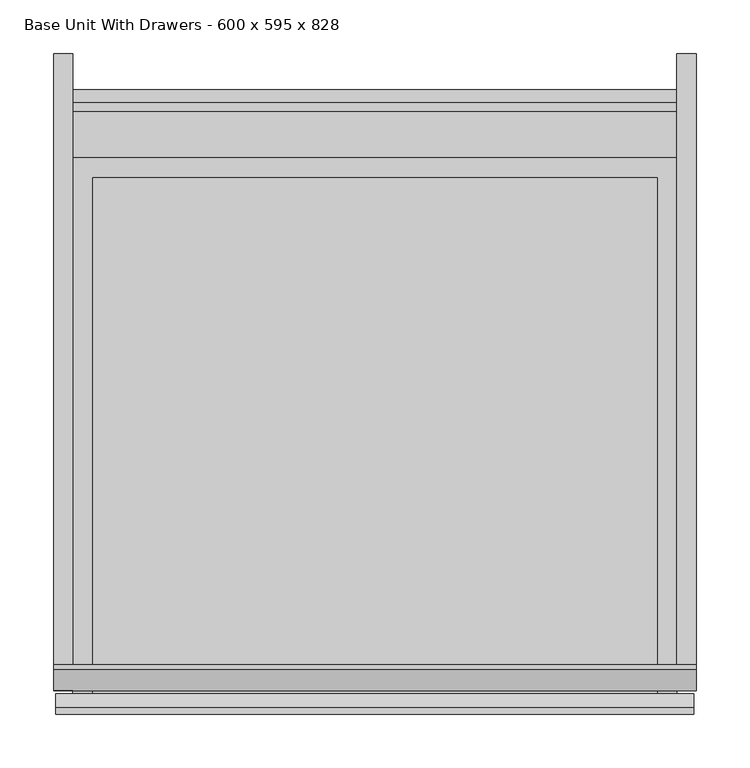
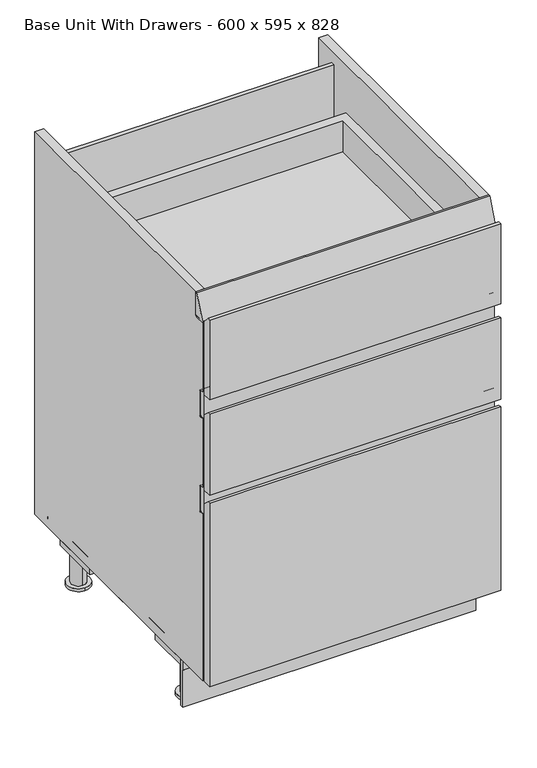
"""IFC4 building model written with IfcOpenShell, lengths in millimetres: furniture geometry, Furniture_Other-Furniture_Molteni&C_Prime_Base-With-Drawers : Base Unit With Drawers - 600 x 595 x 828."""

from ifc_helpers import new_model, si_unit, point, frame, frame_2d, origin, place, context, project, spatial, polyline, circle_curve, trimmed, segment, composite_curve, outline, extrude, faceted_brep, source, transform, mapped, element, save
from ifc_brep_helpers import plane_surface, cylinder_surface, advanced_brep


def base_unit_with_drawers_600_x_595_x_828_efac2a1d(model_context):
    return source(origin(), model_context, "Body", "SolidModel", [
        extrude(outline(composite_curve([segment(polyline([(-297.5, 667.5185675), (-297.5, 725.2271229), (-292.5, 725.2271229)]), True, "CONTINUOUS"), segment(trimmed(circle_curve(frame_2d((-292.5, 720.2271229)), 5.0), [point((-292.5, 725.2271229))], [point((-287.5, 720.2271229))], False, "CARTESIAN"), True, "CONTINUOUS"), segment(polyline([(-287.5, 720.2271229), (-287.5, 672.5185675)]), True, "CONTINUOUS"), segment(trimmed(circle_curve(frame_2d((-292.5, 672.5185675)), 5.0), [point((-287.5, 672.5185675))], [point((-292.5, 667.5185675))], False, "CARTESIAN"), True, "CONTINUOUS"), segment(polyline([(-292.5, 667.5185675), (-297.5, 667.5185675)]), True, "CONTINUOUS")], self_intersect=False)), frame((-298.0, 0.0, 0.0), z_axis=(1.0, 0.0, 0.0), x_axis=(0.0, 1.0, 0.0)), (0.0, 0.0, 1.0), 596.0),
        extrude(outline(composite_curve([segment(trimmed(circle_curve(frame_2d((-292.5, 465.5185675)), 5.0), [point((-287.5, 465.5185675))], [point((-292.5, 460.5185675))], False, "CARTESIAN"), True, "CONTINUOUS"), segment(polyline([(-292.5, 460.5185675), (-297.5, 460.5185675), (-297.5, 518.2271229), (-292.5, 518.2271229)]), True, "CONTINUOUS"), segment(trimmed(circle_curve(frame_2d((-292.5, 513.2271229)), 5.0), [point((-292.5, 518.2271229))], [point((-287.5, 513.2271229))], False, "CARTESIAN"), True, "CONTINUOUS"), segment(polyline([(-287.5, 513.2271229), (-287.5, 465.5185675)]), True, "CONTINUOUS")], self_intersect=False)), frame((-298.0, 0.0, 0.0), z_axis=(1.0, 0.0, 0.0), x_axis=(0.0, 1.0, 0.0)), (0.0, 0.0, 1.0), 596.0),
        extrude(outline(composite_curve([segment(polyline([(-297.5, 877.3416662), (-277.2702375, 928.0), (-273.0222513, 928.0), (-273.0222513, 879.3794292)]), True, "CONTINUOUS"), segment(trimmed(circle_curve(frame_2d((-277.034701, 879.3794292)), 4.0124497), [point((-273.0222513, 879.3794292))], [point((-277.034701, 875.3669795))], False, "CARTESIAN"), True, "CONTINUOUS"), segment(polyline([(-277.034701, 875.3669795), (-297.5, 875.3669795), (-297.5, 877.3416662)]), True, "CONTINUOUS")], self_intersect=False)), frame((-300.0, 0.0, 0.0), z_axis=(1.0, 0.0, 0.0), x_axis=(0.0, 1.0, 0.0)), (0.0, 0.0, 1.0), 600.0),
        extrude(outline(polyline([(-319.5, 690.0), (-313.5, 690.0), (-300.5, 677.0), (-300.5, 514.0), (-319.5, 514.0), (-319.5, 690.0)])), frame((-298.0, 0.0, 0.0), z_axis=(1.0, 0.0, 0.0), x_axis=(0.0, 1.0, 0.0)), (0.0, 0.0, 1.0), 596.0),
        extrude(outline(polyline([(-319.5, 100.0), (-319.5, 497.0), (-313.5, 497.0), (-300.5, 484.0), (-300.5, 100.0), (-319.5, 100.0)])), frame((-298.0, 0.0, 0.0), z_axis=(1.0, 0.0, 0.0), x_axis=(0.0, 1.0, 0.0)), (0.0, 0.0, 1.0), 596.0),
        extrude(outline(polyline([(-300.5, 878.5), (-300.5, 721.0), (-319.5, 721.0), (-319.5, 894.0), (-313.5, 894.0), (-300.5, 878.5)])), frame((-298.0, 0.0, 0.0), z_axis=(1.0, 0.0, 0.0), x_axis=(0.0, 1.0, 0.0)), (0.0, 0.0, 1.0), 596.0),
        extrude(outline(composite_curve([segment(polyline([(-273.0222513, 928.0), (297.5, 928.0), (297.5, 100.0), (-297.5, 100.0), (-297.5, 460.5185675), (-290.5, 460.5185675)]), True, "CONTINUOUS"), segment(trimmed(circle_curve(frame_2d((-290.5, 463.5185675)), 3.0), [point((-290.5, 460.5185675))], [point((-287.5, 463.5185675))], True, "CARTESIAN"), True, "CONTINUOUS"), segment(polyline([(-287.5, 463.5185675), (-287.5, 514.7345888)]), True, "CONTINUOUS"), segment(trimmed(circle_curve(frame_2d((-291.398986, 514.7345888)), 3.898986), [point((-287.5, 514.7345888))], [point((-291.398986, 518.6335747))], True, "CARTESIAN"), True, "CONTINUOUS"), segment(polyline([(-291.398986, 518.6335747), (-297.5, 518.6335747), (-297.5, 667.4321675), (-289.9576065, 667.4321675)]), True, "CONTINUOUS"), segment(trimmed(circle_curve(frame_2d((-290.5, 670.3827283)), 3.0), [point((-289.9576065, 667.4321675))], [point((-287.5, 670.3827283))], True, "CARTESIAN"), True, "CONTINUOUS"), segment(polyline([(-287.5, 670.3827283), (-287.5, 721.7345888)]), True, "CONTINUOUS"), segment(trimmed(circle_curve(frame_2d((-291.398986, 721.7345888)), 3.898986), [point((-287.5, 721.7345888))], [point((-291.398986, 725.6335747))], True, "CARTESIAN"), True, "CONTINUOUS"), segment(polyline([(-291.398986, 725.6335747), (-297.5, 725.6335747), (-297.5, 878.3669795), (-277.034701, 878.3669795)]), True, "CONTINUOUS"), segment(trimmed(circle_curve(frame_2d((-277.034701, 882.3794292)), 4.0124497), [point((-277.034701, 878.3669795))], [point((-273.0222513, 882.3794292))], True, "CARTESIAN"), True, "CONTINUOUS"), segment(polyline([(-273.0222513, 882.3794292), (-273.0222513, 928.0)]), True, "CONTINUOUS")], self_intersect=False)), frame((-300.0, 0.0, 0.0), z_axis=(1.0, 0.0, 0.0), x_axis=(0.0, 1.0, 0.0)), (0.0, 0.0, 1.0), 18.0),
        extrude(outline(composite_curve([segment(polyline([(-273.0222513, 928.0), (297.5, 928.0), (297.5, 100.0), (-297.5, 100.0), (-297.5, 460.7488715), (-290.5, 460.7488715)]), True, "CONTINUOUS"), segment(trimmed(circle_curve(frame_2d((-290.5, 463.7488715)), 3.0), [point((-290.5, 460.7488715))], [point((-287.5, 463.7488715))], True, "CARTESIAN"), True, "CONTINUOUS"), segment(polyline([(-287.5, 463.7488715), (-287.5, 514.7345888)]), True, "CONTINUOUS"), segment(trimmed(circle_curve(frame_2d((-291.398986, 514.7345888)), 3.898986), [point((-287.5, 514.7345888))], [point((-291.398986, 518.6335747))], True, "CARTESIAN"), True, "CONTINUOUS"), segment(polyline([(-291.398986, 518.6335747), (-297.5, 518.6335747), (-297.5, 667.4321675), (-289.9576065, 667.4321675)]), True, "CONTINUOUS"), segment(trimmed(circle_curve(frame_2d((-290.5, 670.3827283)), 3.0), [point((-289.9576065, 667.4321675))], [point((-287.5, 670.3827283))], True, "CARTESIAN"), True, "CONTINUOUS"), segment(polyline([(-287.5, 670.3827283), (-287.5, 721.7345888)]), True, "CONTINUOUS"), segment(trimmed(circle_curve(frame_2d((-291.398986, 721.7345888)), 3.898986), [point((-287.5, 721.7345888))], [point((-291.398986, 725.6335747))], True, "CARTESIAN"), True, "CONTINUOUS"), segment(polyline([(-291.398986, 725.6335747), (-297.5, 725.6335747), (-297.5, 875.3669795), (-277.034701, 875.3669795)]), True, "CONTINUOUS"), segment(trimmed(circle_curve(frame_2d((-277.034701, 879.3794292)), 4.0124497), [point((-277.034701, 875.3669795))], [point((-273.0222513, 879.3794292))], True, "CARTESIAN"), True, "CONTINUOUS"), segment(polyline([(-273.0222513, 879.3794292), (-273.0222513, 928.0)]), True, "CONTINUOUS")], self_intersect=False)), frame((282.0, 0.0, 0.0), z_axis=(1.0, 0.0, 0.0), x_axis=(0.0, 1.0, 0.0)), (0.0, 0.0, 1.0), 18.0),
        advanced_brep(
        [(300.0, -227.5, 80.0), (300.0, -227.5, 0.0), (300.0, -219.5, 0.0), (300.0, -219.5, 80.0), (300.0, -220.5, 80.0), (300.0, -220.5, 100.0), (300.0, -226.5, 100.0), (300.0, -226.5, 80.0), (-300.0, -227.5, 80.0), (-300.0, -226.5, 80.0), (-300.0, -226.5, 100.0), (-300.0, -220.5, 100.0), (-300.0, -220.5, 80.0), (-300.0, -219.5, 80.0), (-300.0, -219.5, 0.0), (-300.0, -227.5, 0.0), (-292.0, -219.5, 80.0), (-292.0, -219.5, 76.0), (-187.4, -219.5, 76.0), (-187.4, -219.5, 80.0), (187.4, -219.5, 80.0), (187.4, -219.5, 76.0), (292.0, -219.5, 76.0), (292.0, -219.5, 80.0), (292.0, -220.2543184, 80.0), (187.4, -220.2543184, 80.0), (-187.4, -220.2543184, 80.0), (-292.0, -220.2543184, 80.0), (292.0, -220.2543184, 100.0), (292.0, -116.0117937, 100.0), (262.0, -116.0117937, 100.0), (187.4, -190.6117937, 100.0), (187.4, -220.2543184, 100.0), (-292.0, -220.2543184, 100.0), (-187.4, -220.2543184, 100.0), (-187.4, -190.6117937, 100.0), (-262.0, -116.0117937, 100.0), (-292.0, -116.0117937, 100.0), (187.4, -190.6117937, 76.0), (262.0, -116.0117937, 76.0), (292.0, -116.0117937, 76.0), (270.0, -210.450213, 76.0), (270.0, -180.450213, 76.0), (-292.0, -116.0117937, 76.0), (-262.0, -116.0117937, 76.0), (-187.4, -190.6117937, 76.0), (-270.0, -210.450213, 76.0), (-270.0, -180.450213, 76.0), (270.0, -172.0406948, 0.0), (270.0, -219.0487988, 0.0), (-270.0, -219.04912, 0.0), (-270.0, -172.041016, 0.0), (-270.0, -210.450213, 6.1757403), (-270.0, -180.450213, 6.1757403), (270.0, -210.450213, 6.1757403), (270.0, -180.450213, 6.1757403), (270.0, -172.0406948, 6.1757403), (270.0, -219.0487988, 6.1757403), (-270.0, -219.04912, 6.1757403), (-270.0, -172.041016, 6.1757403)],
        [
            (0, 1),
            (1, 2),
            (2, 3),
            (3, 4),
            (4, 5),
            (5, 6),
            (6, 7),
            (7, 0),
            (8, 9),
            (9, 10),
            (10, 11),
            (11, 12),
            (12, 13),
            (13, 14),
            (14, 15),
            (15, 8),
            (0, 8),
            (15, 1),
            (14, 2),
            (13, 16),
            (16, 17),
            (17, 18),
            (18, 19),
            (19, 20),
            (20, 21),
            (21, 22),
            (22, 23),
            (23, 3),
            (23, 24),
            (24, 25),
            (25, 20),
            (19, 26),
            (26, 27),
            (27, 16),
            (12, 4),
            (11, 5),
            (10, 6),
            (9, 7),
            (28, 29),
            (29, 30),
            (30, 31),
            (31, 32),
            (32, 28),
            (33, 34),
            (34, 35),
            (35, 36),
            (36, 37),
            (37, 33),
            (38, 39),
            (39, 40),
            (40, 22),
            (21, 38),
            (41, 42, circle_curve(frame((270.0, -195.450213, 76.0), z_axis=(0.0, 0.0, 1.0), x_axis=(1.0, 0.0, 0.0)), 15.0)),
            (42, 41, circle_curve(frame((270.0, -195.450213, 76.0), z_axis=(0.0, 0.0, 1.0), x_axis=(1.0, 0.0, 0.0)), 15.0)),
            (43, 44),
            (44, 45),
            (45, 18),
            (17, 43),
            (46, 47, circle_curve(frame((-270.0, -195.450213, 76.0), z_axis=(0.0, 0.0, 1.0), x_axis=(1.0, 0.0, 0.0)), 15.0)),
            (47, 46, circle_curve(frame((-270.0, -195.450213, 76.0), z_axis=(0.0, 0.0, 1.0), x_axis=(1.0, 0.0, 0.0)), 15.0)),
            (28, 24),
            (40, 29),
            (39, 30),
            (38, 31),
            (25, 32),
            (33, 27),
            (26, 34),
            (45, 35),
            (44, 36),
            (43, 37),
            (48, 49, circle_curve(frame((270.0, -195.5447468, 0.0), z_axis=(0.0, 0.0, -1.0), x_axis=(1.0, 0.0, 0.0)), 23.504052)),
            (49, 48, circle_curve(frame((270.0, -195.5447468, 0.0), z_axis=(0.0, 0.0, -1.0), x_axis=(1.0, 0.0, 0.0)), 23.504052)),
            (50, 51, circle_curve(frame((-270.0, -195.545068, 0.0), z_axis=(0.0, 0.0, -1.0), x_axis=(1.0, 0.0, 0.0)), 23.504052)),
            (51, 50, circle_curve(frame((-270.0, -195.545068, 0.0), z_axis=(0.0, 0.0, -1.0), x_axis=(1.0, 0.0, 0.0)), 23.504052)),
            (46, 52),
            (52, 53, circle_curve(frame((-270.0, -195.450213, 6.1757403), z_axis=(0.0, 0.0, 1.0), x_axis=(1.0, 0.0, 0.0)), 15.0)),
            (53, 47),
            (53, 52, circle_curve(frame((-270.0, -195.450213, 6.1757403), z_axis=(0.0, 0.0, 1.0), x_axis=(1.0, 0.0, 0.0)), 15.0)),
            (41, 54),
            (54, 55, circle_curve(frame((270.0, -195.450213, 6.1757403), z_axis=(0.0, 0.0, 1.0), x_axis=(1.0, 0.0, 0.0)), 15.0)),
            (55, 42),
            (55, 54, circle_curve(frame((270.0, -195.450213, 6.1757403), z_axis=(0.0, 0.0, 1.0), x_axis=(1.0, 0.0, 0.0)), 15.0)),
            (56, 57, circle_curve(frame((270.0, -195.5447468, 6.1757403), z_axis=(0.0, 0.0, 1.0), x_axis=(1.0, 0.0, 0.0)), 23.504052)),
            (57, 56, circle_curve(frame((270.0, -195.5447468, 6.1757403), z_axis=(0.0, 0.0, 1.0), x_axis=(1.0, 0.0, 0.0)), 23.504052)),
            (58, 59, circle_curve(frame((-270.0, -195.545068, 6.1757403), z_axis=(0.0, 0.0, 1.0), x_axis=(1.0, 0.0, 0.0)), 23.504052)),
            (59, 58, circle_curve(frame((-270.0, -195.545068, 6.1757403), z_axis=(0.0, 0.0, 1.0), x_axis=(1.0, 0.0, 0.0)), 23.504052)),
            (56, 48),
            (49, 57),
            (58, 50),
            (51, 59),
        ],
        [
            plane_surface(frame((300.0, -227.5, 0.0), z_axis=(1.0, 0.0, 0.0), x_axis=(0.0, 0.0, -1.0))),
            plane_surface(frame((-300.0, -227.5, 0.0), z_axis=(-1.0, 0.0, 0.0), x_axis=(0.0, 0.0, 1.0))),
            plane_surface(frame((300.0, -227.5, 80.0), z_axis=(0.0, -1.0, 0.0), x_axis=(-1.0, 0.0, 0.0))),
            plane_surface(frame((300.0, -227.5, 0.0), z_axis=(0.0, 0.0, -1.0), x_axis=(-1.0, 0.0, 0.0))),
            plane_surface(frame((300.0, -219.5, 0.0), z_axis=(0.0, 1.0, 0.0), x_axis=(-1.0, 0.0, 0.0))),
            plane_surface(frame((300.0, -219.5, 80.0), z_axis=(0.0, 0.0, 1.0), x_axis=(-1.0, 0.0, 0.0))),
            plane_surface(frame((300.0, -220.5, 80.0), z_axis=(0.0, 1.0, 0.0), x_axis=(-1.0, 0.0, 0.0))),
            plane_surface(frame((300.0, -220.5, 100.0), z_axis=(0.0, 0.0, 1.0), x_axis=(-1.0, 0.0, 0.0))),
            plane_surface(frame((300.0, -226.5, 100.0), z_axis=(0.0, -1.0, 0.0), x_axis=(-1.0, 0.0, 0.0))),
            plane_surface(frame((300.0, -226.5, 80.0), z_axis=(0.0, 0.0, 1.0), x_axis=(-1.0, 0.0, 0.0))),
            plane_surface(frame((-292.0, 116.2642334, 100.0), z_axis=(0.0, 0.0, 1.0), x_axis=(1.0, 0.0, 0.0))),
            plane_surface(frame((-292.0, 116.2642334, 76.0), z_axis=(0.0, 0.0, -1.0), x_axis=(-1.0, 0.0, 0.0))),
            plane_surface(frame((292.0, -220.2543184, 100.0), z_axis=(1.0, 0.0, 0.0), x_axis=(0.0, 0.0, -1.0))),
            plane_surface(frame((292.0, -116.0117937, 100.0), z_axis=(0.0, 1.0, 0.0), x_axis=(0.0, 0.0, -1.0))),
            plane_surface(frame((262.0, -116.0117937, 100.0), z_axis=(-0.7071067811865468, 0.7071067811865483, 0.0), x_axis=(0.0, 0.0, -1.0))),
            plane_surface(frame((187.4, -190.6117937, 100.0), z_axis=(-1.0, 0.0, 0.0), x_axis=(0.0, 0.0, -1.0))),
            plane_surface(frame((187.4, -220.2543184, 100.0), z_axis=(0.0, -1.0, 0.0), x_axis=(0.0, 0.0, -1.0))),
            plane_surface(frame((-292.0, -220.2543184, 100.0), z_axis=(0.0, -1.0, 0.0), x_axis=(0.0, 0.0, -1.0))),
            plane_surface(frame((-187.4, -220.2543184, 100.0), z_axis=(1.0, 0.0, 0.0), x_axis=(0.0, 0.0, -1.0))),
            plane_surface(frame((-187.4, -190.6117937, 100.0), z_axis=(0.7071067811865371, 0.707106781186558, 0.0), x_axis=(0.0, 0.0, -1.0))),
            plane_surface(frame((-262.0, -116.0117937, 100.0), z_axis=(0.0, 1.0, 0.0), x_axis=(0.0, 0.0, -1.0))),
            plane_surface(frame((-292.0, -116.0117937, 100.0), z_axis=(-1.0, 0.0, 0.0), x_axis=(0.0, 0.0, -1.0))),
            plane_surface(frame((-255.0, 195.450213, 0.0), z_axis=(0.0, 0.0, -1.0), x_axis=(0.0, -1.0, 0.0))),
            cylinder_surface(frame((-270.0, -195.450213, 0.0), z_axis=(0.0, 0.0, 1.0), x_axis=(1.0, 0.0, 0.0)), 15.0),
            cylinder_surface(frame((270.0, -195.450213, 0.0), z_axis=(0.0, 0.0, 1.0), x_axis=(1.0, 0.0, 0.0)), 15.0),
            plane_surface(frame((293.504052, -195.5447468, 6.1757403), z_axis=(0.0, 0.0, 1.0), x_axis=(0.0, 1.0, 0.0))),
            cylinder_surface(frame((270.0, -195.5447468, 0.0), z_axis=(0.0, 0.0, 1.0), x_axis=(1.0, 0.0, 0.0)), 23.504052),
            cylinder_surface(frame((-270.0, -195.545068, 0.0), z_axis=(0.0, 0.0, 1.0), x_axis=(1.0, 0.0, 0.0)), 23.504052),
        ],
        [
            (0, [[1, 2, 3, 4, 5, 6, 7, 8]]),
            (1, [[9, 10, 11, 12, 13, 14, 15, 16]]),
            (2, [[-1, 17, -16, 18]]),
            (3, [[-2, -18, -15, 19]]),
            (4, [[-3, -19, -14, 20, 21, 22, 23, 24, 25, 26, 27, 28]]),
            (5, [[-4, -28, 29, 30, 31, -24, 32, 33, 34, -20, -13, 35]]),
            (6, [[-5, -35, -12, 36]]),
            (7, [[-6, -36, -11, 37]]),
            (8, [[-7, -37, -10, 38]]),
            (9, [[-8, -38, -9, -17]]),
            (10, [[39, 40, 41, 42, 43]]),
            (10, [[44, 45, 46, 47, 48]]),
            (11, [[49, 50, 51, -26, 52], [53, 54]]),
            (11, [[55, 56, 57, -22, 58], [59, 60]]),
            (12, [[-39, 61, -29, -27, -51, 62]]),
            (13, [[-40, -62, -50, 63]]),
            (14, [[-41, -63, -49, 64]]),
            (15, [[-42, -64, -52, -25, -31, 65]]),
            (16, [[-43, -65, -30, -61]]),
            (17, [[-44, 66, -33, 67]]),
            (18, [[-45, -67, -32, -23, -57, 68]]),
            (19, [[-46, -68, -56, 69]]),
            (20, [[-47, -69, -55, 70]]),
            (21, [[-48, -70, -58, -21, -34, -66]]),
            (22, [[71, 72]]),
            (22, [[73, 74]]),
            (23, [[-59, 75, 76, 77]]),
            (23, [[-60, -77, 78, -75]]),
            (24, [[-53, 79, 80, 81]]),
            (24, [[-54, -81, 82, -79]]),
            (25, [[83, 84], [-80, -82]]),
            (25, [[85, 86], [-76, -78]]),
            (26, [[-83, 87, -72, 88]]),
            (26, [[-84, -88, -71, -87]]),
            (27, [[-85, 89, -74, 90]]),
            (27, [[-86, -90, -73, -89]]),
        ],
    ),
        advanced_brep(
        [(-292.0, 116.2642334, 100.0), (-262.0, 116.2642334, 100.0), (-187.4, 190.8642334, 100.0), (-187.4, 220.9077377, 100.0), (-292.0, 220.9077377, 100.0), (-292.0, 116.2642334, 76.0), (-292.0, 220.9077377, 76.0), (-187.4, 220.9077377, 76.0), (-187.4, 190.8642334, 76.0), (-262.0, 116.2642334, 76.0), (-270.0, 180.450213, 76.0), (-270.0, 210.450213, 76.0), (-270.0, 219.004052, 0.0), (-270.0, 171.995948, 0.0), (-270.0, 180.450213, 6.1757403), (-270.0, 210.450213, 6.1757403), (-270.0, 219.004052, 6.1757403), (-270.0, 171.995948, 6.1757403)],
        [
            (0, 1),
            (1, 2),
            (2, 3),
            (3, 4),
            (4, 0),
            (5, 6),
            (6, 7),
            (7, 8),
            (8, 9),
            (9, 5),
            (10, 11, circle_curve(frame((-270.0, 195.450213, 76.0), z_axis=(0.0, 0.0, 1.0), x_axis=(1.0, 0.0, 0.0)), 15.0)),
            (11, 10, circle_curve(frame((-270.0, 195.450213, 76.0), z_axis=(0.0, 0.0, 1.0), x_axis=(1.0, 0.0, 0.0)), 15.0)),
            (0, 5),
            (9, 1),
            (8, 2),
            (7, 3),
            (6, 4),
            (12, 13, circle_curve(frame((-270.0, 195.5, 0.0), z_axis=(0.0, 0.0, -1.0), x_axis=(1.0, 0.0, 0.0)), 23.504052)),
            (13, 12, circle_curve(frame((-270.0, 195.5, 0.0), z_axis=(0.0, 0.0, -1.0), x_axis=(1.0, 0.0, 0.0)), 23.504052)),
            (10, 14),
            (14, 15, circle_curve(frame((-270.0, 195.450213, 6.1757403), z_axis=(0.0, 0.0, 1.0), x_axis=(1.0, 0.0, 0.0)), 15.0)),
            (15, 11),
            (15, 14, circle_curve(frame((-270.0, 195.450213, 6.1757403), z_axis=(0.0, 0.0, 1.0), x_axis=(1.0, 0.0, 0.0)), 15.0)),
            (16, 17, circle_curve(frame((-270.0, 195.5, 6.1757403), z_axis=(0.0, 0.0, 1.0), x_axis=(1.0, 0.0, 0.0)), 23.504052)),
            (17, 16, circle_curve(frame((-270.0, 195.5, 6.1757403), z_axis=(0.0, 0.0, 1.0), x_axis=(1.0, 0.0, 0.0)), 23.504052)),
            (16, 12),
            (13, 17),
        ],
        [
            plane_surface(frame((-292.0, 116.2642334, 100.0), z_axis=(0.0, 0.0, 1.0), x_axis=(1.0, 0.0, 0.0))),
            plane_surface(frame((-292.0, 116.2642334, 76.0), z_axis=(0.0, 0.0, -1.0), x_axis=(-1.0, 0.0, 0.0))),
            plane_surface(frame((-292.0, 116.2642334, 100.0), z_axis=(0.0, -1.0, 0.0), x_axis=(0.0, 0.0, -1.0))),
            plane_surface(frame((-262.0, 116.2642334, 100.0), z_axis=(0.7071067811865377, -0.7071067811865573, 0.0), x_axis=(0.0, 0.0, -1.0))),
            plane_surface(frame((-187.4, 190.8642334, 100.0), z_axis=(1.0, 0.0, 0.0), x_axis=(0.0, 0.0, -1.0))),
            plane_surface(frame((-187.4, 220.9077377, 100.0), z_axis=(0.0, 1.0, 0.0), x_axis=(0.0, 0.0, -1.0))),
            plane_surface(frame((-292.0, 220.9077377, 100.0), z_axis=(-1.0, 0.0, 0.0), x_axis=(0.0, 0.0, -1.0))),
            plane_surface(frame((-255.0, 195.450213, 0.0), z_axis=(0.0, 0.0, -1.0), x_axis=(0.0, -1.0, 0.0))),
            cylinder_surface(frame((-270.0, 195.450213, 0.0), z_axis=(0.0, 0.0, 1.0), x_axis=(1.0, 0.0, 0.0)), 15.0),
            plane_surface(frame((293.504052, -195.5447468, 6.1757403), z_axis=(0.0, 0.0, 1.0), x_axis=(0.0, 1.0, 0.0))),
            cylinder_surface(frame((-270.0, 195.5, 0.0), z_axis=(0.0, 0.0, 1.0), x_axis=(1.0, 0.0, 0.0)), 23.504052),
        ],
        [
            (0, [[1, 2, 3, 4, 5]]),
            (1, [[6, 7, 8, 9, 10], [11, 12]]),
            (2, [[-1, 13, -10, 14]]),
            (3, [[-2, -14, -9, 15]]),
            (4, [[-3, -15, -8, 16]]),
            (5, [[-4, -16, -7, 17]]),
            (6, [[-5, -17, -6, -13]]),
            (7, [[18, 19]]),
            (8, [[-11, 20, 21, 22]]),
            (8, [[-12, -22, 23, -20]]),
            (9, [[24, 25], [-21, -23]]),
            (10, [[-24, 26, -19, 27]]),
            (10, [[-25, -27, -18, -26]]),
        ],
    ),
        advanced_brep(
        [(292.0, 116.2642334, 100.0), (292.0, 220.9077377, 100.0), (187.4, 220.9077377, 100.0), (187.4, 190.8642334, 100.0), (262.0, 116.2642334, 100.0), (292.0, 116.2642334, 76.0), (262.0, 116.2642334, 76.0), (187.4, 190.8642334, 76.0), (187.4, 220.9077377, 76.0), (292.0, 220.9077377, 76.0), (270.0, 180.450213, 76.0), (270.0, 210.450213, 76.0), (270.0, 219.004052, 0.0), (270.0, 171.995948, 0.0), (270.0, 180.450213, 6.1757403), (270.0, 210.450213, 6.1757403), (270.0, 219.004052, 6.1757403), (270.0, 171.995948, 6.1757403)],
        [
            (0, 1),
            (1, 2),
            (2, 3),
            (3, 4),
            (4, 0),
            (5, 6),
            (6, 7),
            (7, 8),
            (8, 9),
            (9, 5),
            (10, 11, circle_curve(frame((270.0, 195.450213, 76.0), z_axis=(0.0, 0.0, 1.0), x_axis=(1.0, 0.0, 0.0)), 15.0)),
            (11, 10, circle_curve(frame((270.0, 195.450213, 76.0), z_axis=(0.0, 0.0, 1.0), x_axis=(1.0, 0.0, 0.0)), 15.0)),
            (0, 5),
            (9, 1),
            (8, 2),
            (7, 3),
            (6, 4),
            (12, 13, circle_curve(frame((270.0, 195.5, 0.0), z_axis=(0.0, 0.0, -1.0), x_axis=(1.0, 0.0, 0.0)), 23.504052)),
            (13, 12, circle_curve(frame((270.0, 195.5, 0.0), z_axis=(0.0, 0.0, -1.0), x_axis=(1.0, 0.0, 0.0)), 23.504052)),
            (10, 14),
            (14, 15, circle_curve(frame((270.0, 195.450213, 6.1757403), z_axis=(0.0, 0.0, 1.0), x_axis=(1.0, 0.0, 0.0)), 15.0)),
            (15, 11),
            (15, 14, circle_curve(frame((270.0, 195.450213, 6.1757403), z_axis=(0.0, 0.0, 1.0), x_axis=(1.0, 0.0, 0.0)), 15.0)),
            (16, 17, circle_curve(frame((270.0, 195.5, 6.1757403), z_axis=(0.0, 0.0, 1.0), x_axis=(1.0, 0.0, 0.0)), 23.504052)),
            (17, 16, circle_curve(frame((270.0, 195.5, 6.1757403), z_axis=(0.0, 0.0, 1.0), x_axis=(1.0, 0.0, 0.0)), 23.504052)),
            (16, 12),
            (13, 17),
        ],
        [
            plane_surface(frame((-292.0, 116.2642334, 100.0), z_axis=(0.0, 0.0, 1.0), x_axis=(1.0, 0.0, 0.0))),
            plane_surface(frame((-292.0, 116.2642334, 76.0), z_axis=(0.0, 0.0, -1.0), x_axis=(-1.0, 0.0, 0.0))),
            plane_surface(frame((292.0, 116.2642334, 100.0), z_axis=(1.0, 0.0, 0.0), x_axis=(0.0, 0.0, -1.0))),
            plane_surface(frame((292.0, 220.9077377, 100.0), z_axis=(0.0, 1.0, 0.0), x_axis=(0.0, 0.0, -1.0))),
            plane_surface(frame((187.4, 220.9077377, 100.0), z_axis=(-1.0, 0.0, 0.0), x_axis=(0.0, 0.0, -1.0))),
            plane_surface(frame((187.4, 190.8642334, 100.0), z_axis=(-0.7071067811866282, -0.7071067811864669, 0.0), x_axis=(0.0, 0.0, -1.0))),
            plane_surface(frame((262.0, 116.2642334, 100.0), z_axis=(0.0, -1.0, 0.0), x_axis=(0.0, 0.0, -1.0))),
            plane_surface(frame((-255.0, 195.450213, 0.0), z_axis=(0.0, 0.0, -1.0), x_axis=(0.0, -1.0, 0.0))),
            cylinder_surface(frame((270.0, 195.450213, 0.0), z_axis=(0.0, 0.0, 1.0), x_axis=(1.0, 0.0, 0.0)), 15.0),
            plane_surface(frame((293.504052, -195.5447468, 6.1757403), z_axis=(0.0, 0.0, 1.0), x_axis=(0.0, 1.0, 0.0))),
            cylinder_surface(frame((270.0, 195.5, 0.0), z_axis=(0.0, 0.0, 1.0), x_axis=(1.0, 0.0, 0.0)), 23.504052),
        ],
        [
            (0, [[1, 2, 3, 4, 5]]),
            (1, [[6, 7, 8, 9, 10], [11, 12]]),
            (2, [[-1, 13, -10, 14]]),
            (3, [[-2, -14, -9, 15]]),
            (4, [[-3, -15, -8, 16]]),
            (5, [[-4, -16, -7, 17]]),
            (6, [[-5, -17, -6, -13]]),
            (7, [[18, 19]]),
            (8, [[-11, 20, 21, 22]]),
            (8, [[-12, -22, 23, -20]]),
            (9, [[24, 25], [-21, -23]]),
            (10, [[-24, 26, -19, 27]]),
            (10, [[-25, -27, -18, -26]]),
        ],
    ),
        faceted_brep([(-282.0, 200.107461, 628.2001126), (-282.0, -300.5, 628.2001126), (-264.0, -300.5, 628.2001126), (-264.0, 182.107461, 628.2001126), (264.0, 182.107461, 628.2001126), (264.0, -300.5, 628.2001126), (282.0, -300.5, 628.2001126), (282.0, 200.107461, 628.2001126), (-282.0, 200.107461, 534.1589863), (282.0, 200.107461, 534.1589863), (282.0, -300.5, 534.1589863), (-282.0, -300.5, 534.1589863), (264.0, -300.5, 556.1589863), (-264.0, -300.5, 556.1589863), (-264.0, 182.107461, 556.1589863), (264.0, 182.107461, 556.1589863)], [[[0, 1, 2, 3, 4, 5, 6, 7]], [[8, 9, 10, 11]], [[1, 0, 8, 11]], [[2, 1, 11, 10, 6, 5, 12, 13]], [[3, 2, 13, 14]], [[4, 3, 14, 15]], [[5, 4, 15, 12]], [[7, 6, 10, 9]], [[0, 7, 9, 8]], [[13, 12, 15, 14]]]),
        faceted_brep([(-282.0, 200.107461, 324.5477849), (-282.0, -300.5, 324.5477849), (-264.0, -300.5, 324.5477849), (-264.0, 182.107461, 324.5477849), (264.0, 182.107461, 324.5477849), (264.0, -300.5, 324.5477849), (282.0, -300.5, 324.5477849), (282.0, 200.107461, 324.5477849), (-282.0, 200.107461, 134.1638724), (282.0, 200.107461, 134.1638724), (282.0, -300.5, 134.1638724), (-282.0, -300.5, 134.1638724), (264.0, -300.5, 156.1638724), (-264.0, -300.5, 156.1638724), (-264.0, 182.107461, 156.1638724), (264.0, 182.107461, 156.1638724)], [[[0, 1, 2, 3, 4, 5, 6, 7]], [[8, 9, 10, 11]], [[1, 0, 8, 11]], [[2, 1, 11, 10, 6, 5, 12, 13]], [[3, 2, 13, 14]], [[4, 3, 14, 15]], [[5, 4, 15, 12]], [[7, 6, 10, 9]], [[0, 7, 9, 8]], [[13, 12, 15, 14]]]),
        faceted_brep([(-287.0, 251.5, 902.7620501), (-287.0, 243.4999806, 902.7620501), (287.0, 243.4999806, 902.7620501), (287.0, 251.5, 902.7620501), (-287.0, 251.5, 122.0), (-287.0, 251.5, 118.0), (-287.0, 243.4999806, 118.0), (-287.0, 243.4999806, 122.0), (287.0, 243.4999806, 122.0), (287.0, 243.4999806, 118.0), (287.0, 251.5, 118.0), (287.0, 251.5, 122.0), (300.0, 243.4999806, 122.0), (300.0, -297.5, 122.0), (300.0, -297.5, 100.0), (300.0, 264.0007224, 100.0), (300.0, 264.0007224, 122.0), (300.0, 251.5, 122.0), (300.0, 251.5, 118.0), (300.0, 243.4999806, 118.0), (-300.0, 243.4999806, 122.0), (-300.0, 243.4999806, 118.0), (-300.0, 251.5, 118.0), (-300.0, 251.5, 122.0), (-300.0, 264.0007224, 122.0), (-300.0, 264.0007224, 100.0), (-300.0, -297.5, 100.0), (-300.0, -297.5, 122.0)], [[[0, 1, 2, 3]], [[1, 0, 4, 5, 6, 7]], [[2, 1, 7, 8]], [[3, 2, 8, 9, 10, 11]], [[0, 3, 11, 4]], [[12, 13, 14, 15, 16, 17, 18, 19]], [[20, 21, 22, 23, 24, 25, 26, 27]], [[13, 12, 8, 7, 20, 27]], [[14, 13, 27, 26]], [[15, 14, 26, 25]], [[16, 15, 25, 24]], [[17, 16, 24, 23, 4, 11]], [[18, 17, 11, 10]], [[23, 22, 5, 4]], [[19, 18, 10, 9]], [[22, 21, 6, 5]], [[12, 19, 9, 8]], [[21, 20, 7, 6]]]),
        faceted_brep([(-282.0, 200.107461, 824.4738234), (-282.0, -300.5, 824.4738234), (-264.0, -300.5, 824.4738234), (-264.0, 182.107461, 824.4738234), (264.0, 182.107461, 824.4738234), (264.0, -300.5, 824.4738234), (282.0, -300.5, 824.4738234), (282.0, 200.107461, 824.4738234), (-282.0, 200.107461, 735.2271229), (282.0, 200.107461, 735.2271229), (282.0, -300.5, 735.2271229), (-282.0, -300.5, 735.2271229), (264.0, -300.5, 757.2271229), (-264.0, -300.5, 757.2271229), (-264.0, 182.107461, 757.2271229), (264.0, 182.107461, 757.2271229)], [[[0, 1, 2, 3, 4, 5, 6, 7]], [[8, 9, 10, 11]], [[1, 0, 8, 11]], [[2, 1, 11, 10, 6, 5, 12, 13]], [[3, 2, 13, 14]], [[4, 3, 14, 15]], [[5, 4, 15, 12]], [[7, 6, 10, 9]], [[0, 7, 9, 8]], [[13, 12, 15, 14]]]),
    ])


if __name__ == "__main__":
    model = new_model("IFC4")
    model_context = context("Model", 3, world=origin())
    ifc_project = project(units=[si_unit("LENGTHUNIT", "METRE", prefix="MILLI")], contexts=[model_context])
    site = spatial("IfcSite", under=ifc_project)
    building = spatial("IfcBuilding", under=site)
    placement = place(None, origin())
    base_unit_with_drawers_600_x_595_x_828_shape = base_unit_with_drawers_600_x_595_x_828_efac2a1d(model_context)
    element("IfcFurniture", 1, ObjectType="Furniture_Other-Furniture_Molteni&C_Prime_Base-With-Drawers : Base Unit With Drawers - 600 x 595 x 828", at=placement, inside=building, context=model_context, shape_type="MappedRepresentation", body=[
        mapped(base_unit_with_drawers_600_x_595_x_828_shape, transform((0.0, 0.0, 0.0), x_axis=(1.0, 0.0, 0.0), y_axis=(0.0, 1.0, 0.0), z_axis=(0.0, 0.0, 1.0))),
    ])
    save(model, "model.ifc")
